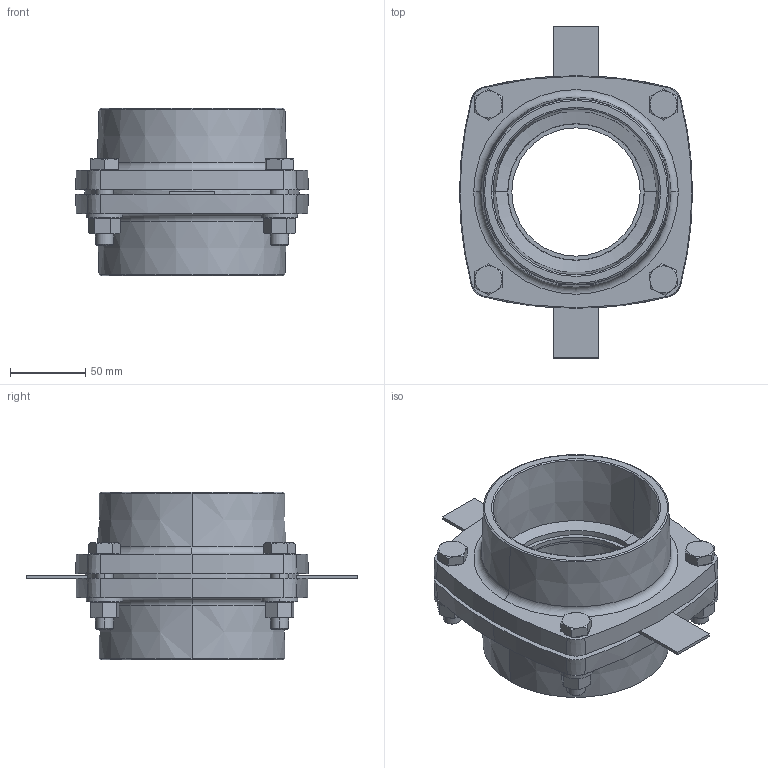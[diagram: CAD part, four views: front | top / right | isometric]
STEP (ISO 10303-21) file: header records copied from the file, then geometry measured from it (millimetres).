
FILE_DESCRIPTION (( 'STEP AP214' ), '1' );
FILE_NAME ('KP_F16-110FF.STEP', '2014-01-20T15:44:09', ( 'robinj' ), ( 'Microsoft' ), 'SwSTEP 2.0', 'SolidWorks 2014', '' );
FILE_SCHEMA (( 'AUTOMOTIVE_DESIGN' ));
Length unit declared in the file: millimetre
Products named in the file (1): KP_F16-110FF
Bounding box: 154.3 x 220 x 111 mm (x, y, z)
Volume: 654138.8 mm3; surface area: 142320.7 mm2
Topology: 1 solids, 1 shells, 359 faces, 792 edges, 464 vertices
Faces by surface type: plane 147, cone 132, cylinder 68, torus 12
Entity records: 11517 total; most frequent: CARTESIAN_POINT 2176, DIRECTION 1792, ORIENTED_EDGE 1584, EDGE_CURVE 792, AXIS2_PLACEMENT_3D 736, VERTEX_POINT 464, EDGE_LOOP 398, CIRCLE 376
